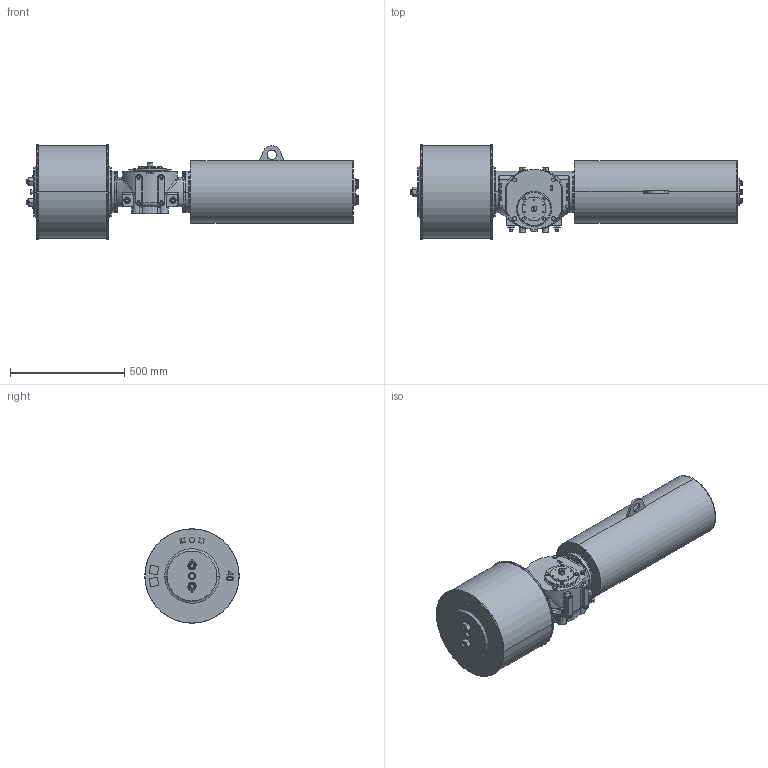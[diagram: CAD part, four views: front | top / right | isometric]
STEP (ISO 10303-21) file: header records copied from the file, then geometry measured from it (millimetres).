
FILE_DESCRIPTION (( 'STEP AP203' ), '1' );
FILE_NAME ('VTS2-400-SR-FC.STEP', '2023-01-01T07:51:07', ( '' ), ( '' ), 'SwSTEP 2.0', 'SolidWorks 2020', '' );
FILE_SCHEMA (( 'CONFIG_CONTROL_DESIGN' ));
Length unit declared in the file: millimetre
Products named in the file (1): VTS2-400-SR-FC
Bounding box: 1450.78 x 413 x 413 mm (x, y, z)
Volume: 94948001.8 mm3; surface area: 1968792.5 mm2
Topology: 4 solids, 6 shells, 1835 faces, 4668 edges, 2939 vertices
Faces by surface type: plane 729, cylinder 559, cone 394, bspline 153
Entity records: 68827 total; most frequent: CARTESIAN_POINT 25661, ORIENTED_EDGE 9236, DIRECTION 8854, EDGE_CURVE 4618, AXIS2_PLACEMENT_3D 3502, VERTEX_POINT 2939, EDGE_LOOP 2041, LINE 1850
